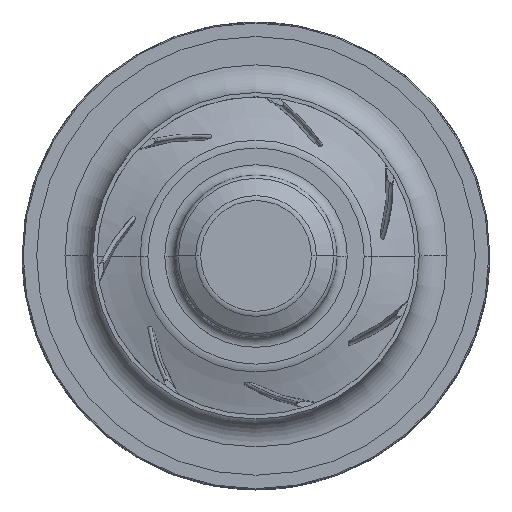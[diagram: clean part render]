
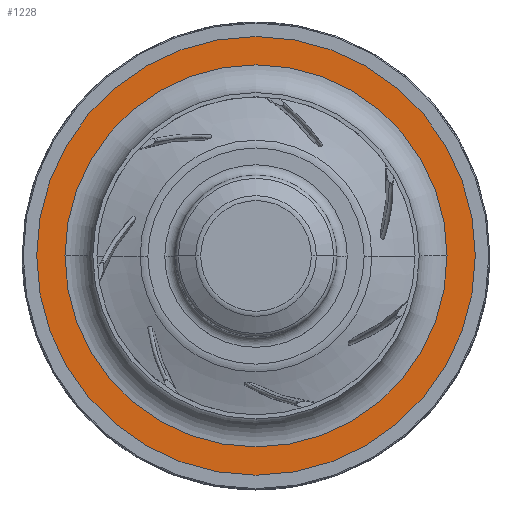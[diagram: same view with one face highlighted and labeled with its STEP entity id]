
A CAD part, top view. The second image highlights one B-rep face of the part: STEP entity #1228.
In plain terms, the highlighted planar face has unit normal (0, 0, 1).
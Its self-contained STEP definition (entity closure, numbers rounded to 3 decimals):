
#275 = CARTESIAN_POINT ( 'NONE',  ( 0., 0., 67. ) ) ;
#434 = CARTESIAN_POINT ( 'NONE',  ( 0., 0., 67. ) ) ;
#466 = VERTEX_POINT ( 'NONE', #4555 ) ;
#613 = CARTESIAN_POINT ( 'NONE',  ( 91.9, 0., 67. ) ) ;
#658 = ORIENTED_EDGE ( 'NONE', *, *, #4674, .F. ) ;
#776 = DIRECTION ( 'NONE',  ( -1., 0., 0. ) ) ;
#795 = AXIS2_PLACEMENT_3D ( 'NONE', #1076, #5142, #1678 ) ;
#850 = DIRECTION ( 'NONE',  ( -1., 0., 0. ) ) ;
#1023 = DIRECTION ( 'NONE',  ( -1., 0., 0. ) ) ;
#1076 = CARTESIAN_POINT ( 'NONE',  ( 0., 0., 67. ) ) ;
#1228 = ADVANCED_FACE ( 'NONE', ( #3277, #4537 ), #3538, .F. ) ;
#1327 = CARTESIAN_POINT ( 'NONE',  ( -105.5, 0., 67. ) ) ;
#1458 = DIRECTION ( 'NONE',  ( 0., 0., -1. ) ) ;
#1678 = DIRECTION ( 'NONE',  ( -1., 0., 0. ) ) ;
#1789 = CIRCLE ( 'NONE', #7426, 91.9 ) ;
#2100 = EDGE_CURVE ( 'NONE', #4330, #3626, #4780, .T. ) ;
#2246 = CARTESIAN_POINT ( 'NONE',  ( 105.5, 0., 67. ) ) ;
#2433 = ORIENTED_EDGE ( 'NONE', *, *, #4953, .T. ) ;
#2874 = CIRCLE ( 'NONE', #795, 105.5 ) ;
#3271 = EDGE_LOOP ( 'NONE', ( #2433, #7400 ) ) ;
#3277 = FACE_OUTER_BOUND ( 'NONE', #5716, .T. ) ;
#3538 = PLANE ( 'NONE',  #5940 ) ;
#3626 = VERTEX_POINT ( 'NONE', #1327 ) ;
#3776 = AXIS2_PLACEMENT_3D ( 'NONE', #275, #4323, #850 ) ;
#3989 = CARTESIAN_POINT ( 'NONE',  ( 91.9, 0., 67. ) ) ;
#4315 = ORIENTED_EDGE ( 'NONE', *, *, #2100, .F. ) ;
#4323 = DIRECTION ( 'NONE',  ( 0., 0., -1. ) ) ;
#4330 = VERTEX_POINT ( 'NONE', #2246 ) ;
#4481 = DIRECTION ( 'NONE',  ( 0., 0., -1. ) ) ;
#4537 = FACE_BOUND ( 'NONE', #3271, .T. ) ;
#4555 = CARTESIAN_POINT ( 'NONE',  ( -91.9, 0., 67. ) ) ;
#4674 = EDGE_CURVE ( 'NONE', #3626, #4330, #2874, .T. ) ;
#4742 = VERTEX_POINT ( 'NONE', #3989 ) ;
#4780 = CIRCLE ( 'NONE', #5213, 105.5 ) ;
#4928 = CARTESIAN_POINT ( 'NONE',  ( 0., 0., 67. ) ) ;
#4953 = EDGE_CURVE ( 'NONE', #466, #4742, #1789, .T. ) ;
#5142 = DIRECTION ( 'NONE',  ( 0., 0., -1. ) ) ;
#5213 = AXIS2_PLACEMENT_3D ( 'NONE', #434, #4481, #1023 ) ;
#5509 = DIRECTION ( 'NONE',  ( -1., 0., 0. ) ) ;
#5716 = EDGE_LOOP ( 'NONE', ( #658, #4315 ) ) ;
#5940 = AXIS2_PLACEMENT_3D ( 'NONE', #613, #7068, #776 ) ;
#6614 = CIRCLE ( 'NONE', #3776, 91.9 ) ;
#7068 = DIRECTION ( 'NONE',  ( 0., 0., -1. ) ) ;
#7291 = EDGE_CURVE ( 'NONE', #4742, #466, #6614, .T. ) ;
#7400 = ORIENTED_EDGE ( 'NONE', *, *, #7291, .T. ) ;
#7426 = AXIS2_PLACEMENT_3D ( 'NONE', #4928, #1458, #5509 ) ;
